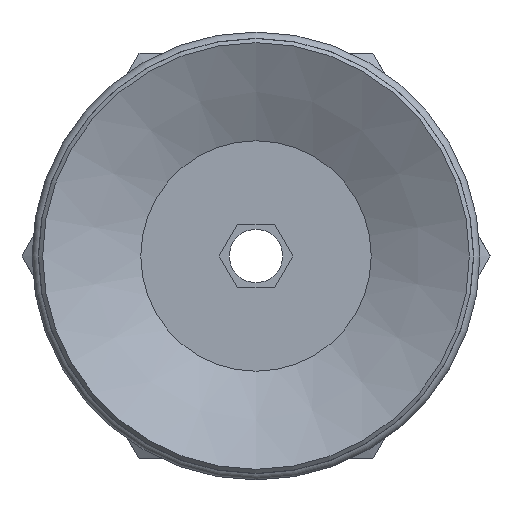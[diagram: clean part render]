
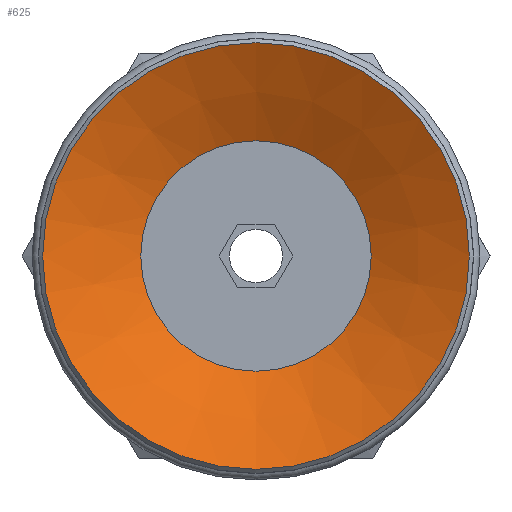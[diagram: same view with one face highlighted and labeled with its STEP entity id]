
A CAD part, front view. The second image highlights one B-rep face of the part: STEP entity #625.
In plain terms, the highlighted conical face has half-angle 63 degrees and reference radius 5.4 mm.
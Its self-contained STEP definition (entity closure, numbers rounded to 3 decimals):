
#625=ADVANCED_FACE('',(#949,#950),#951,.F.);
#949=FACE_BOUND('',#1350,.T.);
#950=FACE_OUTER_BOUND('',#1351,.T.);
#951=CONICAL_SURFACE('',#1352,5.4,1.1);
#1350=EDGE_LOOP('',(#2459));
#1351=EDGE_LOOP('',(#2460));
#1352=AXIS2_PLACEMENT_3D('',#2461,#2462,#2463);
#2459=ORIENTED_EDGE('',*,*,#2992,.F.);
#2460=ORIENTED_EDGE('',*,*,#2991,.T.);
#2461=CARTESIAN_POINT('',(0.0,5.518,0.0));
#2462=DIRECTION('',(-0.0,-1.0,0.));
#2463=DIRECTION('',(0.0,0.,-1.0));
#2991=EDGE_CURVE('',#3440,#3440,#3441,.T.);
#2992=EDGE_CURVE('',#3442,#3442,#3443,.T.);
#3440=VERTEX_POINT('',#4378);
#3441=CIRCLE('',#4379,10.0);
#3442=VERTEX_POINT('',#4380);
#3443=CIRCLE('',#4381,5.4);
#4378=CARTESIAN_POINT('',(0.0,3.175,-10.0));
#4379=AXIS2_PLACEMENT_3D('',#5163,#5164,#5165);
#4380=CARTESIAN_POINT('',(0.0,5.518,-5.4));
#4381=AXIS2_PLACEMENT_3D('',#5166,#5167,#5168);
#5163=CARTESIAN_POINT('',(0.0,3.175,0.0));
#5164=DIRECTION('',(0.0,-1.0,0.));
#5165=DIRECTION('',(0.0,0.,-1.0));
#5166=CARTESIAN_POINT('',(0.0,5.518,0.0));
#5167=DIRECTION('',(0.0,-1.0,0.));
#5168=DIRECTION('',(0.0,0.,-1.0));
